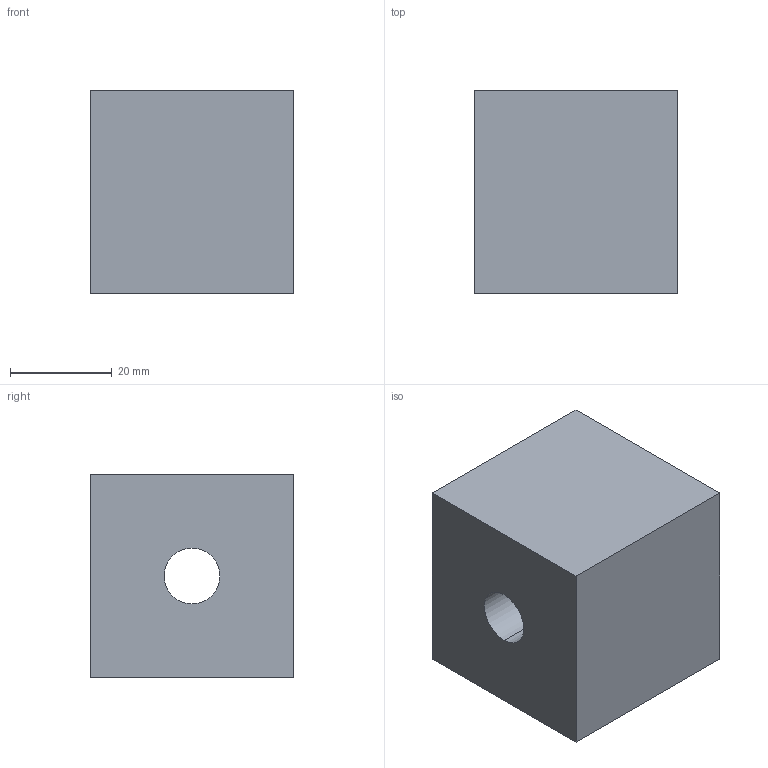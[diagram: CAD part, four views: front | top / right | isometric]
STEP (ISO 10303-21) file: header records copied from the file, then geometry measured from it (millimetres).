
FILE_DESCRIPTION (( 'STEP AP214' ), '1' );
FILE_NAME ('1-1352.4.STEP', '2017-04-26T08:00:07', ( '' ), ( '' ), 'SwSTEP 2.0', 'SolidWorks 2016', '' );
FILE_SCHEMA (( 'AUTOMOTIVE_DESIGN' ));
Length unit declared in the file: millimetre
Products named in the file (1): 1-1352.4
Bounding box: 40 x 40 x 40 mm (x, y, z)
Volume: 56116.2 mm3; surface area: 11365.5 mm2
Topology: 1 solids, 1 shells, 28 faces, 66 edges, 40 vertices
Faces by surface type: cylinder 10, cone 8, plane 8, torus 2
Entity records: 1000 total; most frequent: CARTESIAN_POINT 209, DIRECTION 150, ORIENTED_EDGE 132, EDGE_CURVE 66, AXIS2_PLACEMENT_3D 59, VERTEX_POINT 40, VECTOR 32, LINE 32
